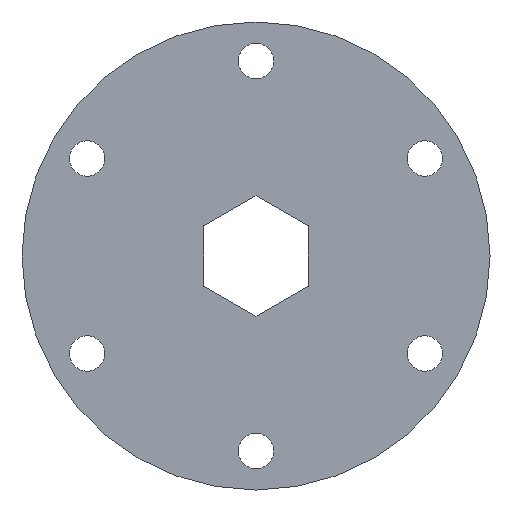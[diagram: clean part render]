
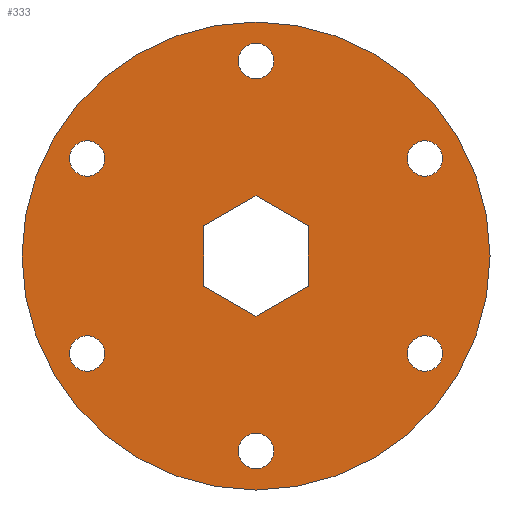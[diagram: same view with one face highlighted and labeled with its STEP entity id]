
A CAD part, front view. The second image highlights one B-rep face of the part: STEP entity #333.
In plain terms, the highlighted planar face has unit normal (0, -1, 0).
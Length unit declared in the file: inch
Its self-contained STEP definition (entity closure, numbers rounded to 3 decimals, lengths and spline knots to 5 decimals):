
#16=FACE_BOUND('',#73,.T.);
#17=FACE_BOUND('',#74,.T.);
#18=FACE_BOUND('',#75,.T.);
#19=FACE_BOUND('',#76,.T.);
#20=FACE_BOUND('',#77,.T.);
#21=FACE_BOUND('',#78,.T.);
#22=FACE_BOUND('',#79,.T.);
#37=PLANE('',#380);
#54=FACE_OUTER_BOUND('',#72,.T.);
#72=EDGE_LOOP('',(#289));
#73=EDGE_LOOP('',(#290));
#74=EDGE_LOOP('',(#291));
#75=EDGE_LOOP('',(#292));
#76=EDGE_LOOP('',(#293));
#77=EDGE_LOOP('',(#294));
#78=EDGE_LOOP('',(#295));
#79=EDGE_LOOP('',(#296,#297,#298,#299,#300,#301));
#94=LINE('',#516,#120);
#98=LINE('',#524,#124);
#101=LINE('',#530,#127);
#104=LINE('',#536,#130);
#107=LINE('',#542,#133);
#110=LINE('',#547,#136);
#120=VECTOR('',#428,0.3937);
#124=VECTOR('',#434,0.3937);
#127=VECTOR('',#439,0.3937);
#130=VECTOR('',#444,0.3937);
#133=VECTOR('',#449,0.3937);
#136=VECTOR('',#454,0.3937);
#141=CIRCLE('',#351,0.085);
#143=CIRCLE('',#354,0.085);
#145=CIRCLE('',#357,0.085);
#147=CIRCLE('',#360,0.085);
#149=CIRCLE('',#363,0.085);
#151=CIRCLE('',#366,0.085);
#155=CIRCLE('',#379,1.125);
#157=VERTEX_POINT('',#480);
#159=VERTEX_POINT('',#486);
#161=VERTEX_POINT('',#492);
#163=VERTEX_POINT('',#498);
#165=VERTEX_POINT('',#504);
#167=VERTEX_POINT('',#510);
#168=VERTEX_POINT('',#514);
#169=VERTEX_POINT('',#515);
#172=VERTEX_POINT('',#523);
#174=VERTEX_POINT('',#529);
#176=VERTEX_POINT('',#535);
#178=VERTEX_POINT('',#541);
#183=VERTEX_POINT('',#559);
#186=EDGE_CURVE('',#157,#157,#141,.T.);
#189=EDGE_CURVE('',#159,#159,#143,.T.);
#192=EDGE_CURVE('',#161,#161,#145,.T.);
#195=EDGE_CURVE('',#163,#163,#147,.T.);
#198=EDGE_CURVE('',#165,#165,#149,.T.);
#201=EDGE_CURVE('',#167,#167,#151,.T.);
#202=EDGE_CURVE('',#168,#169,#94,.T.);
#206=EDGE_CURVE('',#169,#172,#98,.T.);
#209=EDGE_CURVE('',#172,#174,#101,.T.);
#212=EDGE_CURVE('',#174,#176,#104,.T.);
#215=EDGE_CURVE('',#176,#178,#107,.T.);
#218=EDGE_CURVE('',#178,#168,#110,.T.);
#225=EDGE_CURVE('',#183,#183,#155,.T.);
#289=ORIENTED_EDGE('',*,*,#225,.T.);
#290=ORIENTED_EDGE('',*,*,#186,.T.);
#291=ORIENTED_EDGE('',*,*,#189,.T.);
#292=ORIENTED_EDGE('',*,*,#192,.T.);
#293=ORIENTED_EDGE('',*,*,#195,.T.);
#294=ORIENTED_EDGE('',*,*,#198,.T.);
#295=ORIENTED_EDGE('',*,*,#201,.T.);
#296=ORIENTED_EDGE('',*,*,#212,.T.);
#297=ORIENTED_EDGE('',*,*,#215,.T.);
#298=ORIENTED_EDGE('',*,*,#218,.T.);
#299=ORIENTED_EDGE('',*,*,#202,.T.);
#300=ORIENTED_EDGE('',*,*,#206,.T.);
#301=ORIENTED_EDGE('',*,*,#209,.T.);
#333=ADVANCED_FACE('',(#54,#16,#17,#18,#19,#20,#21,#22),#37,.F.);
#351=AXIS2_PLACEMENT_3D('',#482,#389,#390);
#354=AXIS2_PLACEMENT_3D('',#488,#396,#397);
#357=AXIS2_PLACEMENT_3D('',#494,#403,#404);
#360=AXIS2_PLACEMENT_3D('',#500,#410,#411);
#363=AXIS2_PLACEMENT_3D('',#506,#417,#418);
#366=AXIS2_PLACEMENT_3D('',#512,#424,#425);
#379=AXIS2_PLACEMENT_3D('',#561,#470,#471);
#380=AXIS2_PLACEMENT_3D('',#562,#472,#473);
#389=DIRECTION('center_axis',(0.,1.,0.));
#390=DIRECTION('ref_axis',(-1.,0.,0.));
#396=DIRECTION('center_axis',(0.,1.,0.));
#397=DIRECTION('ref_axis',(-1.,0.,0.));
#403=DIRECTION('center_axis',(0.,1.,0.));
#404=DIRECTION('ref_axis',(-1.,0.,0.));
#410=DIRECTION('center_axis',(0.,1.,0.));
#411=DIRECTION('ref_axis',(-1.,0.,0.));
#417=DIRECTION('center_axis',(0.,1.,0.));
#418=DIRECTION('ref_axis',(-1.,0.,0.));
#424=DIRECTION('center_axis',(0.,1.,0.));
#425=DIRECTION('ref_axis',(-1.,0.,0.));
#428=DIRECTION('',(0.866,0.,-0.5));
#434=DIRECTION('',(0.,0.,-1.));
#439=DIRECTION('',(-0.866,0.,-0.5));
#444=DIRECTION('',(-0.866,0.,0.5));
#449=DIRECTION('',(0.,0.,1.));
#454=DIRECTION('',(0.866,0.,0.5));
#470=DIRECTION('center_axis',(0.,-1.,0.));
#471=DIRECTION('ref_axis',(1.,0.,0.));
#472=DIRECTION('center_axis',(0.,1.,0.));
#473=DIRECTION('ref_axis',(0.,0.,1.));
#480=CARTESIAN_POINT('',(-0.7269,0.,0.46875));
#482=CARTESIAN_POINT('Origin',(-0.8119,0.,0.46875));
#486=CARTESIAN_POINT('',(0.085,0.,0.9375));
#488=CARTESIAN_POINT('Origin',(0.,0.,0.9375));
#492=CARTESIAN_POINT('',(0.8969,0.,-0.46875));
#494=CARTESIAN_POINT('Origin',(0.8119,0.,-0.46875));
#498=CARTESIAN_POINT('',(0.085,0.,-0.9375));
#500=CARTESIAN_POINT('Origin',(0.,0.,-0.9375));
#504=CARTESIAN_POINT('',(0.8969,0.,0.46875));
#506=CARTESIAN_POINT('Origin',(0.8119,0.,0.46875));
#510=CARTESIAN_POINT('',(-0.7269,0.,-0.46875));
#512=CARTESIAN_POINT('Origin',(-0.8119,0.,-0.46875));
#514=CARTESIAN_POINT('',(0.,0.,0.28925));
#515=CARTESIAN_POINT('',(0.2505,0.,0.14463));
#516=CARTESIAN_POINT('',(0.18788,0.,0.18078));
#523=CARTESIAN_POINT('',(0.2505,0.,-0.14463));
#524=CARTESIAN_POINT('',(0.2505,0.,-0.07231));
#529=CARTESIAN_POINT('',(0.,0.,-0.28925));
#530=CARTESIAN_POINT('',(0.06262,0.,-0.2531));
#535=CARTESIAN_POINT('',(-0.2505,0.,-0.14463));
#536=CARTESIAN_POINT('',(-0.18788,0.,-0.18078));
#541=CARTESIAN_POINT('',(-0.2505,0.,0.14463));
#542=CARTESIAN_POINT('',(-0.2505,0.,0.07231));
#547=CARTESIAN_POINT('',(-0.06262,0.,0.2531));
#559=CARTESIAN_POINT('',(-1.125,0.,0.));
#561=CARTESIAN_POINT('Origin',(0.,0.,0.));
#562=CARTESIAN_POINT('Origin',(0.,0.,0.));
